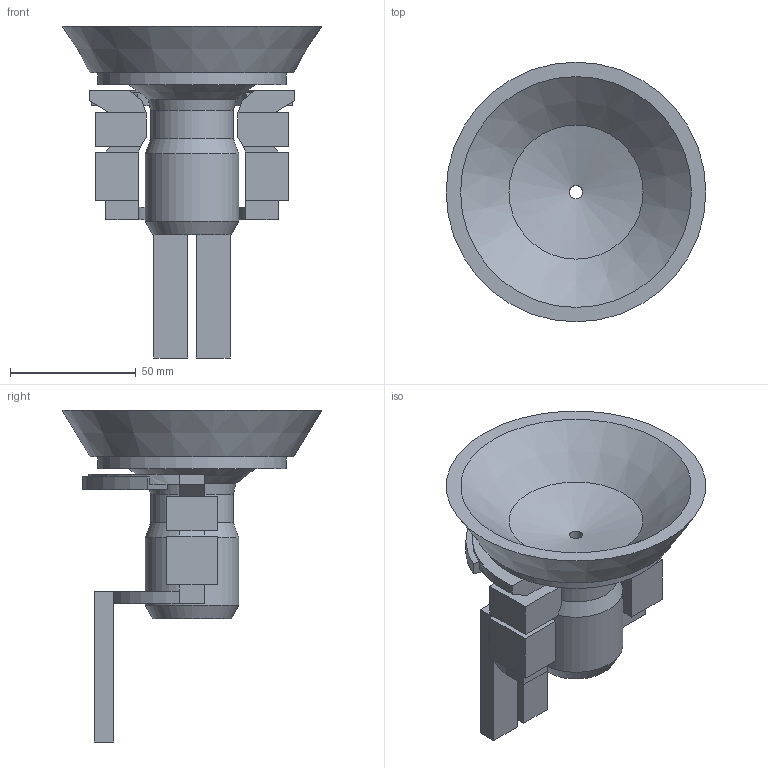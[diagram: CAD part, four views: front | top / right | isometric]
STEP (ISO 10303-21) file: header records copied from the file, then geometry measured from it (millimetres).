
FILE_DESCRIPTION(('Open CASCADE Model'),'2;1');
FILE_NAME('Open CASCADE Shape Model','2020-01-07T11:11:51',('Author'),( 'Open CASCADE'),'Open CASCADE STEP processor 7.3','Open CASCADE 7.3' ,'Unknown');
FILE_SCHEMA(('AUTOMOTIVE_DESIGN { 1 0 10303 214 1 1 1 1 }'));
Length unit declared in the file: metre
Products named in the file (2): Open CASCADE STEP translator 7.3 6; Open CASCADE STEP translator 7.3 6.1
Assembly tree (1 placements, depth 2):
  Open CASCADE STEP translator 7.3 6
    Open CASCADE STEP translator 7.3 6.1
Bounding box: 103.4 x 103.4 x 132.16 mm (x, y, z)
Surface area: 59400.5 mm2 (no closed solid volume)
Topology: 0 solids, 8 shells, 157 faces, 370 edges, 231 vertices
Faces by surface type: plane 126, cylinder 24, cone 7
Full cylindrical faces by diameter (mm): 5.234 x1, 32.825 x1, 37.182 x1, 75.224 x1
Entity records: 7836 total; most frequent: CARTESIAN_POINT 1399, DIRECTION 1232, LINE 817, VECTOR 817, ORIENTED_EDGE 662, PCURVE 608, DEFINITIONAL_REPRESENTATION 608, EDGE_CURVE 304
